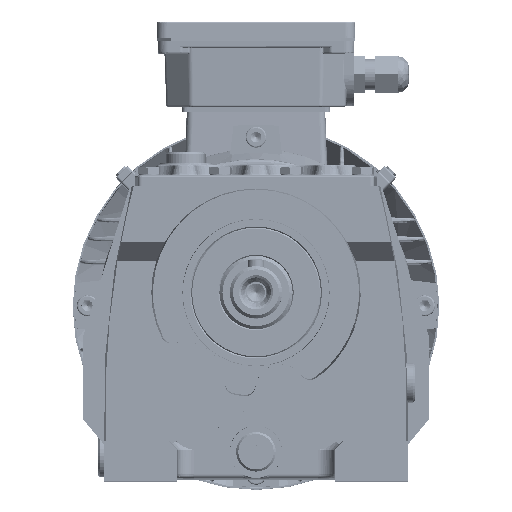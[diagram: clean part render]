
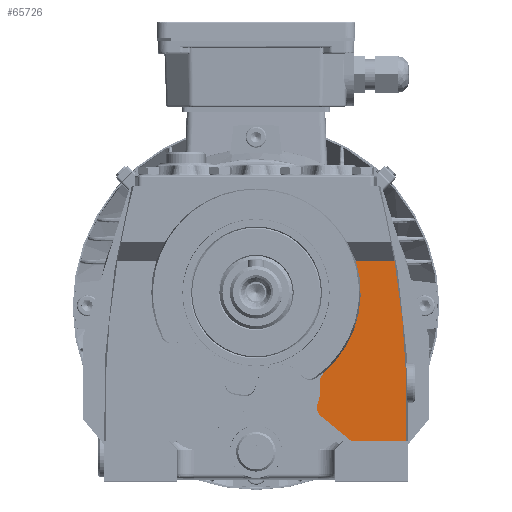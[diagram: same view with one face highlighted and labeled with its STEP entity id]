
A CAD part, top view. The second image highlights one B-rep face of the part: STEP entity #65726.
In plain terms, the highlighted planar face has unit normal (0, 0, 1).
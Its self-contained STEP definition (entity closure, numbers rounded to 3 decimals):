
#8186 = AXIS2_PLACEMENT_3D ( 'NONE', #149874, #149804, #149880 ) ;
#8211 = AXIS2_PLACEMENT_3D ( 'NONE', #154085, #154107, #154131 ) ;
#9772 = AXIS2_PLACEMENT_3D ( 'NONE', #165776, #165783, #165762 ) ;
#9816 = AXIS2_PLACEMENT_3D ( 'NONE', #165621, #165609, #165601 ) ;
#30363 = FACE_OUTER_BOUND ( 'NONE', #94211, .T. ) ;
#65726 = ADVANCED_FACE ( 'NONE', ( #30363 ), #119410, .F. ) ;
#92162 = VERTEX_POINT ( 'NONE', #183540 ) ;
#92169 = VERTEX_POINT ( 'NONE', #183536 ) ;
#92180 = VERTEX_POINT ( 'NONE', #183575 ) ;
#92194 = VERTEX_POINT ( 'NONE', #183702 ) ;
#92197 = VERTEX_POINT ( 'NONE', #183787 ) ;
#92356 = VERTEX_POINT ( 'NONE', #184683 ) ;
#92382 = VERTEX_POINT ( 'NONE', #184841 ) ;
#92962 = VERTEX_POINT ( 'NONE', #185767 ) ;
#92969 = VERTEX_POINT ( 'NONE', #185734 ) ;
#92976 = VERTEX_POINT ( 'NONE', #185719 ) ;
#92997 = VERTEX_POINT ( 'NONE', #185830 ) ;
#94211 = EDGE_LOOP ( 'NONE', ( #172036, #171997, #171978, #172020, #171957, #171988, #172070, #172027, #172060, #171979, #172049 ) ) ;
#108412 = EDGE_CURVE ( 'NONE', #92162, #92962, #116774, .T. ) ;
#108467 = EDGE_CURVE ( 'NONE', #92197, #92976, #116858, .T. ) ;
#108564 = EDGE_CURVE ( 'NONE', #92969, #92197, #116921, .T. ) ;
#116774 = LINE ( 'NONE', #149207, #116818 ) ;
#116818 = VECTOR ( 'NONE', #149212, 1000. ) ;
#116858 = CIRCLE ( 'NONE', #8186, 5. ) ;
#116921 = CIRCLE ( 'NONE', #8211, 19. ) ;
#119379 = DIRECTION ( 'NONE',  ( 0., 0., -1. ) ) ;
#119384 = DIRECTION ( 'NONE',  ( -1., 0., 0. ) ) ;
#119410 = PLANE ( 'NONE',  #126205 ) ;
#119411 = CARTESIAN_POINT ( 'NONE',  ( -357.211, -55.739, 111.5 ) ) ;
#126205 = AXIS2_PLACEMENT_3D ( 'NONE', #119411, #119379, #119384 ) ;
#138988 = EDGE_CURVE ( 'NONE', #92976, #92962, #176242, .T. ) ;
#139059 = EDGE_CURVE ( 'NONE', #92997, #92969, #176482, .T. ) ;
#139313 = EDGE_CURVE ( 'NONE', #92169, #92997, #176995, .T. ) ;
#139391 = EDGE_CURVE ( 'NONE', #92180, #92194, #142138, .T. ) ;
#139400 = EDGE_CURVE ( 'NONE', #92162, #92180, #142180, .T. ) ;
#139493 = EDGE_CURVE ( 'NONE', #92356, #92169, #142272, .T. ) ;
#139511 = EDGE_CURVE ( 'NONE', #92194, #92382, #142416, .T. ) ;
#139533 = EDGE_CURVE ( 'NONE', #92356, #92382, #142414, .T. ) ;
#142102 = VECTOR ( 'NONE', #177480, 1000. ) ;
#142138 = LINE ( 'NONE', #177373, #142102 ) ;
#142180 = CIRCLE ( 'NONE', #173926, 50. ) ;
#142272 = LINE ( 'NONE', #178421, #142308 ) ;
#142308 = VECTOR ( 'NONE', #178356, 1000. ) ;
#142380 = VECTOR ( 'NONE', #178788, 1000. ) ;
#142414 = LINE ( 'NONE', #178579, #142380 ) ;
#142416 = CIRCLE ( 'NONE', #174220, 429.241 ) ;
#149207 = CARTESIAN_POINT ( 'NONE',  ( 32.306, -38.83, 111.5 ) ) ;
#149212 = DIRECTION ( 'NONE',  ( 0.687, -0.727, 0. ) ) ;
#149804 = DIRECTION ( 'NONE',  ( 0., 0., -1. ) ) ;
#149874 = CARTESIAN_POINT ( 'NONE',  ( 35.438, -42.728, 111.5 ) ) ;
#149880 = DIRECTION ( 'NONE',  ( -1., 0., 0. ) ) ;
#154085 = CARTESIAN_POINT ( 'NONE',  ( 11.7, -46.267, 111.5 ) ) ;
#154107 = DIRECTION ( 'NONE',  ( 0., 0., 1. ) ) ;
#154131 = DIRECTION ( 'NONE',  ( -1., 0., 0. ) ) ;
#165601 = DIRECTION ( 'NONE',  ( -1., 0., 0. ) ) ;
#165609 = DIRECTION ( 'NONE',  ( 0., 0., -1. ) ) ;
#165621 = CARTESIAN_POINT ( 'NONE',  ( 35.438, -42.728, 111.5 ) ) ;
#165762 = DIRECTION ( 'NONE',  ( -1., 0., 0. ) ) ;
#165776 = CARTESIAN_POINT ( 'NONE',  ( 34.062, -54.982, 111.5 ) ) ;
#165783 = DIRECTION ( 'NONE',  ( 0., 0., -1. ) ) ;
#171957 = ORIENTED_EDGE ( 'NONE', *, *, #108467, .F. ) ;
#171978 = ORIENTED_EDGE ( 'NONE', *, *, #108412, .T. ) ;
#171979 = ORIENTED_EDGE ( 'NONE', *, *, #139533, .T. ) ;
#171988 = ORIENTED_EDGE ( 'NONE', *, *, #108564, .F. ) ;
#171997 = ORIENTED_EDGE ( 'NONE', *, *, #139400, .F. ) ;
#172020 = ORIENTED_EDGE ( 'NONE', *, *, #138988, .F. ) ;
#172027 = ORIENTED_EDGE ( 'NONE', *, *, #139313, .F. ) ;
#172036 = ORIENTED_EDGE ( 'NONE', *, *, #139391, .F. ) ;
#172049 = ORIENTED_EDGE ( 'NONE', *, *, #139511, .F. ) ;
#172060 = ORIENTED_EDGE ( 'NONE', *, *, #139493, .F. ) ;
#172070 = ORIENTED_EDGE ( 'NONE', *, *, #139059, .F. ) ;
#173638 = AXIS2_PLACEMENT_3D ( 'NONE', #176303, #176318, #176386 ) ;
#173926 = AXIS2_PLACEMENT_3D ( 'NONE', #177518, #177577, #177618 ) ;
#174220 = AXIS2_PLACEMENT_3D ( 'NONE', #178507, #178547, #178470 ) ;
#176242 = CIRCLE ( 'NONE', #9816, 5. ) ;
#176303 = CARTESIAN_POINT ( 'NONE',  ( 34.062, -54.982, 111.5 ) ) ;
#176318 = DIRECTION ( 'NONE',  ( 0., 0., -1. ) ) ;
#176386 = DIRECTION ( 'NONE',  ( -1., 0., 0. ) ) ;
#176482 = CIRCLE ( 'NONE', #9772, 5. ) ;
#176995 = CIRCLE ( 'NONE', #173638, 5. ) ;
#177373 = CARTESIAN_POINT ( 'NONE',  ( -357.211, 15.25, 111.5 ) ) ;
#177480 = DIRECTION ( 'NONE',  ( 1., 0., 0. ) ) ;
#177518 = CARTESIAN_POINT ( 'NONE',  ( 0., 0., 111.5 ) ) ;
#177577 = DIRECTION ( 'NONE',  ( 0., 0., 1. ) ) ;
#177618 = DIRECTION ( 'NONE',  ( 0., 1., 0. ) ) ;
#178356 = DIRECTION ( 'NONE',  ( -0.772, 0.636, 0. ) ) ;
#178421 = CARTESIAN_POINT ( 'NONE',  ( 45.634, -71., 111.5 ) ) ;
#178470 = DIRECTION ( 'NONE',  ( 0., 1., 0. ) ) ;
#178507 = CARTESIAN_POINT ( 'NONE',  ( -357.211, -55.739, 111.5 ) ) ;
#178547 = DIRECTION ( 'NONE',  ( 0., 0., -1. ) ) ;
#178579 = CARTESIAN_POINT ( 'NONE',  ( 37.5, -71., 111.5 ) ) ;
#178788 = DIRECTION ( 'NONE',  ( 1., 0., 0. ) ) ;
#183536 = CARTESIAN_POINT ( 'NONE',  ( 30.882, -58.84, 111.5 ) ) ;
#183540 = CARTESIAN_POINT ( 'NONE',  ( 31.954, -38.457, 111.5 ) ) ;
#183575 = CARTESIAN_POINT ( 'NONE',  ( 47.618, 15.25, 111.5 ) ) ;
#183702 = CARTESIAN_POINT ( 'NONE',  ( 66.119, 15.25, 111.5 ) ) ;
#183787 = CARTESIAN_POINT ( 'NONE',  ( 30.492, -43.465, 111.5 ) ) ;
#184683 = CARTESIAN_POINT ( 'NONE',  ( 45.634, -71., 111.5 ) ) ;
#184841 = CARTESIAN_POINT ( 'NONE',  ( 71.758, -71., 111.5 ) ) ;
#185719 = CARTESIAN_POINT ( 'NONE',  ( 30.438, -42.728, 111.5 ) ) ;
#185734 = CARTESIAN_POINT ( 'NONE',  ( 29.404, -53.166, 111.5 ) ) ;
#185767 = CARTESIAN_POINT ( 'NONE',  ( 32.306, -38.83, 111.5 ) ) ;
#185830 = CARTESIAN_POINT ( 'NONE',  ( 29.062, -54.982, 111.5 ) ) ;
